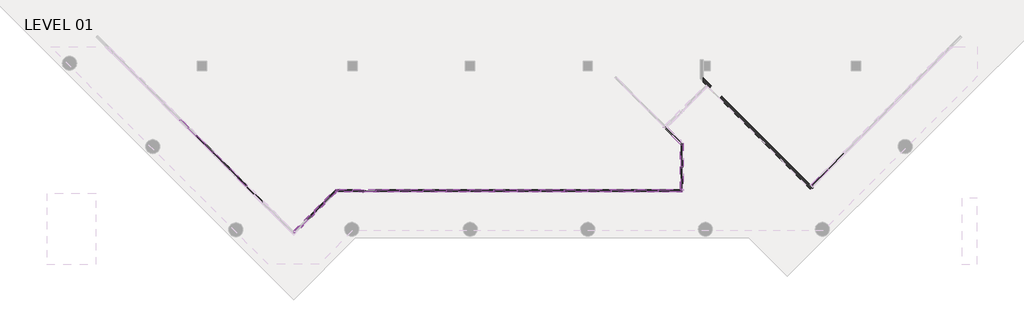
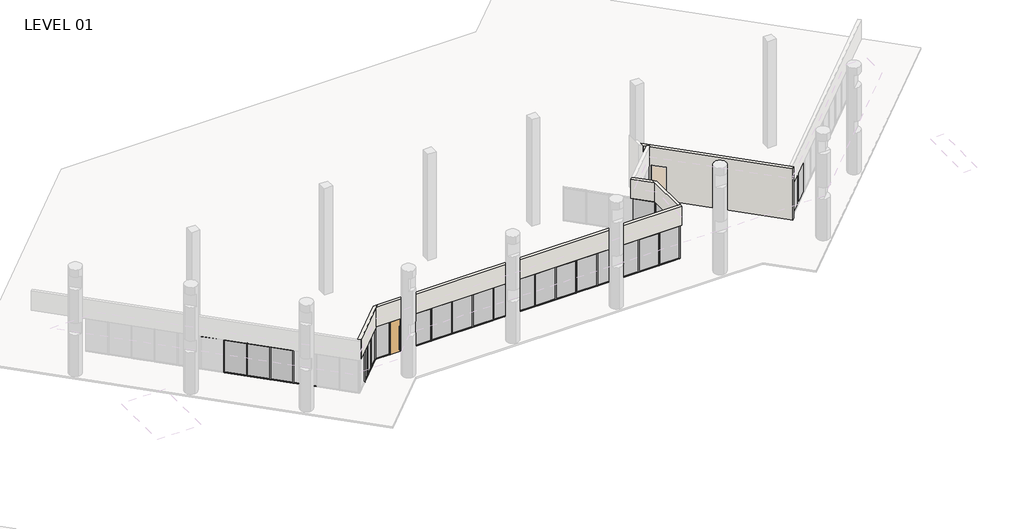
# One storey, part 11 of 24: 79 members, 25 plates, 5 walls, 1 door.
"""IFC4 building model written with IfcOpenShell, lengths in millimetres."""

from ifc_helpers import new_model, si_unit, origin, place, context, project, spatial, faceted_brep, transform, mapped, element, save
from components import curtain_wall_dbl_glass_curtain_wall_dbl_glass_5292c49e, member_5247f267, member_ed5eb8ce, member_1b18ecbc, member_e44af9ab, member_800970d4, member_cca1f9e6, member_76371e1d, member_71e516ba, plate_ce959b8d, plate_67294edd, plate_5a14c350, plate_43a54168, plate_9188e7fd, plate_7efc74f4

model = new_model("IFC4")

# Units and contexts
model_context = context("Model", 3, world=origin())
ifc_project = project(units=[si_unit("LENGTHUNIT", "METRE", prefix="MILLI")], contexts=[model_context])

# Site, building, storey
site = spatial("IfcSite", under=ifc_project)
building = spatial("IfcBuilding", under=site)
storey = spatial("IfcBuildingStorey", under=building, Name="LEVEL 01", Elevation=0.0)

# Door
placement = place(None, origin())
curtain_wall_dbl_glass_curtain_wall_dbl_glass_shape = curtain_wall_dbl_glass_curtain_wall_dbl_glass_5292c49e(model_context)
element("IfcDoor", 1, ObjectType="Curtain Wall Dbl Glass : Curtain Wall Dbl Glass", at=placement, inside=storey, context=model_context, shape_type="MappedRepresentation", body=[
    mapped(curtain_wall_dbl_glass_curtain_wall_dbl_glass_shape, transform((19157.95, 91946.6523049, 0.0), x_axis=(1.0, 0.0, 0.0), y_axis=(0.0, 1.0, 0.0), z_axis=(0.0, 0.0, 1.0))),
])

# Members
member_shape = member_5247f267(model_context)
element("IfcMember", 2, ObjectType="Rectangular Mullion : 2\" x 4.5\" rectangular", at=placement, inside=storey, context=model_context, shape_type="MappedRepresentation", body=[
    mapped(member_shape, transform((9392.9905574, 94402.756245, 0.0), x_axis=(0.0, 0.0, -1.0), y_axis=(-0.7071067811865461, -0.707106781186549, 0.0), z_axis=(-0.707106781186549, 0.7071067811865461, 0.0))),
])
element("IfcMember", 3, ObjectType="Rectangular Mullion : 2\" x 4.5\" rectangular", at=placement, inside=storey, context=model_context, shape_type="MappedRepresentation", body=[
    mapped(member_shape, transform((11548.2520264, 92247.4947759, 0.0), x_axis=(0.0, 0.0, -1.0), y_axis=(-0.7071067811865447, -0.7071067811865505, 0.0), z_axis=(-0.7071067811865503, 0.7071067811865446, 0.0))),
])
element("IfcMember", 4, ObjectType="Rectangular Mullion : 2\" x 4.5\" rectangular", at=placement, inside=storey, context=model_context, shape_type="MappedRepresentation", body=[
    mapped(member_shape, transform((8315.3598228, 95480.3869795, 0.0), x_axis=(0.0, 0.0, -1.0), y_axis=(-0.7071067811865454, -0.7071067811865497, 0.0), z_axis=(-0.7071067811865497, 0.7071067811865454, 0.0))),
])
element("IfcMember", 5, ObjectType="Rectangular Mullion : 2\" x 4.5\" rectangular", at=placement, inside=storey, context=model_context, shape_type="MappedRepresentation", body=[
    mapped(member_shape, transform((10470.6212919, 93325.1255104, 0.0), x_axis=(0.0, 0.0, -1.0), y_axis=(-0.7071067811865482, -0.7071067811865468, 0.0), z_axis=(-0.7071067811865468, 0.7071067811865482, 0.0))),
])
element("IfcMember", 6, ObjectType="Rectangular Mullion : 2\" x 4.5\" rectangular", at=placement, inside=storey, context=model_context, shape_type="MappedRepresentation", body=[
    mapped(member_shape, transform((22993.35, 91946.6523049, 0.0), x_axis=(0.0, 0.0, -1.0), y_axis=(0.0, -1.0, 0.0), z_axis=(-1.0, 0.0, 0.0))),
])
element("IfcMember", 7, ObjectType="Rectangular Mullion : 2\" x 4.5\" rectangular", at=placement, inside=storey, context=model_context, shape_type="MappedRepresentation", body=[
    mapped(member_shape, transform((26041.35, 91946.6523049, 0.0), x_axis=(0.0, 0.0, -1.0), y_axis=(0.0, -1.0, 0.0), z_axis=(-1.0, 0.0, 0.0))),
])
element("IfcMember", 8, ObjectType="Rectangular Mullion : 2\" x 4.5\" rectangular", at=placement, inside=storey, context=model_context, shape_type="MappedRepresentation", body=[
    mapped(member_shape, transform((27565.35, 91946.6523049, 0.0), x_axis=(0.0, 0.0, -1.0), y_axis=(0.0, -1.0, 0.0), z_axis=(-1.0, 0.0, 0.0))),
])
element("IfcMember", 9, ObjectType="Rectangular Mullion : 2\" x 4.5\" rectangular", at=placement, inside=storey, context=model_context, shape_type="MappedRepresentation", body=[
    mapped(member_shape, transform((30613.35, 91946.6523049, 0.0), x_axis=(0.0, 0.0, -1.0), y_axis=(0.0, -1.0, 0.0), z_axis=(-1.0, 0.0, 0.0))),
])
element("IfcMember", 10, ObjectType="Rectangular Mullion : 2\" x 4.5\" rectangular", at=placement, inside=storey, context=model_context, shape_type="MappedRepresentation", body=[
    mapped(member_shape, transform((33661.35, 91946.6523049, 0.0), x_axis=(0.0, 0.0, -1.0), y_axis=(0.0, -1.0, 0.0), z_axis=(-1.0, 0.0, 0.0))),
])
element("IfcMember", 11, ObjectType="Rectangular Mullion : 2\" x 4.5\" rectangular", at=placement, inside=storey, context=model_context, shape_type="MappedRepresentation", body=[
    mapped(member_shape, transform((35185.35, 91946.6523049, 0.0), x_axis=(0.0, 0.0, -1.0), y_axis=(0.0, -1.0, 0.0), z_axis=(-1.0, 0.0, 0.0))),
])
element("IfcMember", 12, ObjectType="Rectangular Mullion : 2\" x 4.5\" rectangular", at=placement, inside=storey, context=model_context, shape_type="MappedRepresentation", body=[
    mapped(member_shape, transform((24517.35, 91946.6523049, 0.0), x_axis=(0.0, 0.0, -1.0), y_axis=(0.0, -1.0, 0.0), z_axis=(-1.0, 0.0, 0.0))),
])
element("IfcMember", 13, ObjectType="Rectangular Mullion : 2\" x 4.5\" rectangular", at=placement, inside=storey, context=model_context, shape_type="MappedRepresentation", body=[
    mapped(member_shape, transform((21469.35, 91946.6523049, 0.0), x_axis=(0.0, 0.0, -1.0), y_axis=(0.0, -1.0, 0.0), z_axis=(-1.0, 0.0, 0.0))),
])
element("IfcMember", 14, ObjectType="Rectangular Mullion : 2\" x 4.5\" rectangular", at=placement, inside=storey, context=model_context, shape_type="MappedRepresentation", body=[
    mapped(member_shape, transform((19945.35, 91946.6523049, 0.0), x_axis=(0.0, 0.0, -1.0), y_axis=(0.0, -1.0, 0.0), z_axis=(-1.0, 0.0, 0.0))),
])
element("IfcMember", 15, ObjectType="Rectangular Mullion : 2\" x 4.5\" rectangular", at=placement, inside=storey, context=model_context, shape_type="MappedRepresentation", body=[
    mapped(member_shape, transform((32137.35, 91946.6523049, 0.0), x_axis=(0.0, 0.0, -1.0), y_axis=(0.0, -1.0, 0.0), z_axis=(-1.0, 0.0, 0.0))),
])
element("IfcMember", 16, ObjectType="Rectangular Mullion : 2\" x 4.5\" rectangular", at=placement, inside=storey, context=model_context, shape_type="MappedRepresentation", body=[
    mapped(member_shape, transform((29089.35, 91946.6523049, 0.0), x_axis=(0.0, 0.0, -1.0), y_axis=(0.0, -1.0, 0.0), z_axis=(-1.0, 0.0, 0.0))),
])
element("IfcMember", 17, ObjectType="Rectangular Mullion : 2\" x 4.5\" rectangular", at=placement, inside=storey, context=model_context, shape_type="MappedRepresentation", body=[
    mapped(member_shape, transform((36709.35, 91946.6523049, 0.0), x_axis=(0.0, 0.0, -1.0), y_axis=(0.0, -1.0, 0.0), z_axis=(-1.0, 0.0, 0.0))),
])
element("IfcMember", 18, ObjectType="Rectangular Mullion : 2\" x 4.5\" rectangular", at=placement, inside=storey, context=model_context, shape_type="MappedRepresentation", body=[
    mapped(member_shape, transform((9357.0695329, 94438.6772694, 2590.8), x_axis=(0.0, 0.0, 1.0), y_axis=(-0.7071067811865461, -0.707106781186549, 0.0), z_axis=(0.707106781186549, -0.7071067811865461, 0.0))),
])
element("IfcMember", 19, ObjectType="Rectangular Mullion : 2\" x 4.5\" rectangular", at=placement, inside=storey, context=model_context, shape_type="MappedRepresentation", body=[
    mapped(member_shape, transform((11512.3310019, 92283.4158004, 2590.8), x_axis=(0.0, 0.0, 1.0), y_axis=(-0.7071067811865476, -0.7071067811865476, 0.0), z_axis=(0.7071067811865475, -0.7071067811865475, 0.0))),
])
element("IfcMember", 20, ObjectType="Rectangular Mullion : 2\" x 4.5\" rectangular", at=placement, inside=storey, context=model_context, shape_type="MappedRepresentation", body=[
    mapped(member_shape, transform((8279.4387983, 95516.308004, 2590.8), x_axis=(0.0, 0.0, 1.0), y_axis=(-0.7071067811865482, -0.7071067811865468, 0.0), z_axis=(0.7071067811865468, -0.7071067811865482, 0.0))),
])
element("IfcMember", 21, ObjectType="Rectangular Mullion : 2\" x 4.5\" rectangular", at=placement, inside=storey, context=model_context, shape_type="MappedRepresentation", body=[
    mapped(member_shape, transform((10434.7002674, 93361.0465349, 2590.8), x_axis=(0.0, 0.0, 1.0), y_axis=(-0.7071067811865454, -0.7071067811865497, 0.0), z_axis=(0.7071067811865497, -0.7071067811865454, 0.0))),
])
element("IfcMember", 22, ObjectType="Rectangular Mullion : 2\" x 4.5\" rectangular", at=placement, inside=storey, context=model_context, shape_type="MappedRepresentation", body=[
    mapped(member_shape, transform((22942.55, 91946.6523049, 2590.8), x_axis=(0.0, 0.0, 1.0), y_axis=(0.0, -1.0, 0.0), z_axis=(1.0, 0.0, 0.0))),
])
element("IfcMember", 23, ObjectType="Rectangular Mullion : 2\" x 4.5\" rectangular", at=placement, inside=storey, context=model_context, shape_type="MappedRepresentation", body=[
    mapped(member_shape, transform((25990.55, 91946.6523049, 2590.8), x_axis=(0.0, 0.0, 1.0), y_axis=(0.0, -1.0, 0.0), z_axis=(1.0, 0.0, 0.0))),
])
element("IfcMember", 24, ObjectType="Rectangular Mullion : 2\" x 4.5\" rectangular", at=placement, inside=storey, context=model_context, shape_type="MappedRepresentation", body=[
    mapped(member_shape, transform((27514.55, 91946.6523049, 2590.8), x_axis=(0.0, 0.0, 1.0), y_axis=(0.0, -1.0, 0.0), z_axis=(1.0, 0.0, 0.0))),
])
element("IfcMember", 25, ObjectType="Rectangular Mullion : 2\" x 4.5\" rectangular", at=placement, inside=storey, context=model_context, shape_type="MappedRepresentation", body=[
    mapped(member_shape, transform((30562.55, 91946.6523049, 2590.8), x_axis=(0.0, 0.0, 1.0), y_axis=(0.0, -1.0, 0.0), z_axis=(1.0, 0.0, 0.0))),
])
element("IfcMember", 26, ObjectType="Rectangular Mullion : 2\" x 4.5\" rectangular", at=placement, inside=storey, context=model_context, shape_type="MappedRepresentation", body=[
    mapped(member_shape, transform((33610.55, 91946.6523049, 2590.8), x_axis=(0.0, 0.0, 1.0), y_axis=(0.0, -1.0, 0.0), z_axis=(1.0, 0.0, 0.0))),
])
element("IfcMember", 27, ObjectType="Rectangular Mullion : 2\" x 4.5\" rectangular", at=placement, inside=storey, context=model_context, shape_type="MappedRepresentation", body=[
    mapped(member_shape, transform((35134.55, 91946.6523049, 2590.8), x_axis=(0.0, 0.0, 1.0), y_axis=(0.0, -1.0, 0.0), z_axis=(1.0, 0.0, 0.0))),
])
element("IfcMember", 28, ObjectType="Rectangular Mullion : 2\" x 4.5\" rectangular", at=placement, inside=storey, context=model_context, shape_type="MappedRepresentation", body=[
    mapped(member_shape, transform((38182.55, 91946.6523049, 2590.8), x_axis=(0.0, 0.0, 1.0), y_axis=(0.0, -1.0, 0.0), z_axis=(1.0, 0.0, 0.0))),
])
element("IfcMember", 29, ObjectType="Rectangular Mullion : 2\" x 4.5\" rectangular", at=placement, inside=storey, context=model_context, shape_type="MappedRepresentation", body=[
    mapped(member_shape, transform((24466.55, 91946.6523049, 2590.8), x_axis=(0.0, 0.0, 1.0), y_axis=(0.0, -1.0, 0.0), z_axis=(1.0, 0.0, 0.0))),
])
element("IfcMember", 30, ObjectType="Rectangular Mullion : 2\" x 4.5\" rectangular", at=placement, inside=storey, context=model_context, shape_type="MappedRepresentation", body=[
    mapped(member_shape, transform((21418.55, 91946.6523049, 2590.8), x_axis=(0.0, 0.0, 1.0), y_axis=(0.0, -1.0, 0.0), z_axis=(1.0, 0.0, 0.0))),
])
element("IfcMember", 31, ObjectType="Rectangular Mullion : 2\" x 4.5\" rectangular", at=placement, inside=storey, context=model_context, shape_type="MappedRepresentation", body=[
    mapped(member_shape, transform((19894.55, 91946.6523049, 2590.8), x_axis=(0.0, 0.0, 1.0), y_axis=(0.0, -1.0, 0.0), z_axis=(1.0, 0.0, 0.0))),
])
element("IfcMember", 32, ObjectType="Rectangular Mullion : 2\" x 4.5\" rectangular", at=placement, inside=storey, context=model_context, shape_type="MappedRepresentation", body=[
    mapped(member_shape, transform((32086.55, 91946.6523049, 2590.8), x_axis=(0.0, 0.0, 1.0), y_axis=(0.0, -1.0, 0.0), z_axis=(1.0, 0.0, 0.0))),
])
element("IfcMember", 33, ObjectType="Rectangular Mullion : 2\" x 4.5\" rectangular", at=placement, inside=storey, context=model_context, shape_type="MappedRepresentation", body=[
    mapped(member_shape, transform((29038.55, 91946.6523049, 2590.8), x_axis=(0.0, 0.0, 1.0), y_axis=(0.0, -1.0, 0.0), z_axis=(1.0, 0.0, 0.0))),
])
element("IfcMember", 34, ObjectType="Rectangular Mullion : 2\" x 4.5\" rectangular", at=placement, inside=storey, context=model_context, shape_type="MappedRepresentation", body=[
    mapped(member_shape, transform((36658.55, 91946.6523049, 2590.8), x_axis=(0.0, 0.0, 1.0), y_axis=(0.0, -1.0, 0.0), z_axis=(1.0, 0.0, 0.0))),
])
member_2_shape = member_ed5eb8ce(model_context)
element("IfcMember", 35, ObjectType="Rectangular Mullion : 2\" x 4.5\" rectangular", at=placement, inside=storey, context=model_context, shape_type="MappedRepresentation", body=[
    mapped(member_2_shape, transform((17286.8844781, 91910.7312804, 2590.8), x_axis=(0.0, 0.0, 1.0), y_axis=(0.7071067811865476, -0.7071067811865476, 0.0), z_axis=(0.7071067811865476, 0.7071067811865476, 0.0))),
])
element("IfcMember", 36, ObjectType="Rectangular Mullion : 2\" x 4.5\" rectangular", at=placement, inside=storey, context=model_context, shape_type="MappedRepresentation", body=[
    mapped(member_2_shape, transform((18370.55, 91946.6523049, 2590.8), x_axis=(0.0, 0.0, 1.0), y_axis=(0.0, -1.0, 0.0), z_axis=(1.0, 0.0, 0.0))),
])
element("IfcMember", 37, ObjectType="Rectangular Mullion : 2\" x 4.5\" rectangular", at=placement, inside=storey, context=model_context, shape_type="MappedRepresentation", body=[
    mapped(member_2_shape, transform((16581.9343726, 91205.7811749, 0.0), x_axis=(0.0, 0.0, -1.0), y_axis=(0.7071067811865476, -0.7071067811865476, 0.0), z_axis=(-0.7071067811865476, -0.7071067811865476, 0.0))),
])
element("IfcMember", 38, ObjectType="Rectangular Mullion : 2\" x 4.5\" rectangular", at=placement, inside=storey, context=model_context, shape_type="MappedRepresentation", body=[
    mapped(member_2_shape, transform((17373.6055026, 91946.6523049, 0.0), x_axis=(0.0, 0.0, -1.0), y_axis=(0.0, -1.0, 0.0), z_axis=(-1.0, 0.0, 0.0))),
])
member_3_shape = member_1b18ecbc(model_context)
element("IfcMember", 39, ObjectType="Rectangular Mullion : 2\" x 4.5\" rectangular", at=placement, inside=storey, context=model_context, shape_type="MappedRepresentation", body=[
    mapped(member_3_shape, transform((15468.3826136, 90092.2294159, 2590.8), x_axis=(0.0, 0.0, 1.0), y_axis=(0.7071067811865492, -0.7071067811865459, 0.0), z_axis=(0.7071067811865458, 0.7071067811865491, 0.0))),
])
member_4_shape = member_e44af9ab(model_context)
element("IfcMember", 40, ObjectType="Rectangular Mullion : 2\" x 4.5\" rectangular", at=placement, inside=storey, context=model_context, shape_type="MappedRepresentation", body=[
    mapped(member_4_shape, transform((9375.0300451, 94420.7167572, 0.0), x_axis=(0.7071067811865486, -0.7071067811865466, 0.0), y_axis=(-0.7071067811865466, -0.7071067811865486, 0.0), z_axis=(0.0, 0.0, -1.0))),
])
element("IfcMember", 41, ObjectType="Rectangular Mullion : 2\" x 4.5\" rectangular", at=placement, inside=storey, context=model_context, shape_type="MappedRepresentation", body=[
    mapped(member_4_shape, transform((11530.2915142, 92265.4552881, 0.0), x_axis=(0.7071067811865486, -0.7071067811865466, 0.0), y_axis=(-0.7071067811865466, -0.7071067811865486, 0.0), z_axis=(0.0, 0.0, -1.0))),
])
element("IfcMember", 42, ObjectType="Rectangular Mullion : 2\" x 4.5\" rectangular", at=placement, inside=storey, context=model_context, shape_type="MappedRepresentation", body=[
    mapped(member_4_shape, transform((16563.9738604, 91187.8206627, 0.0), x_axis=(0.7071067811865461, 0.7071067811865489, 0.0), y_axis=(0.7071067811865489, -0.7071067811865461, 0.0), z_axis=(0.0, 0.0, -1.0))),
])
element("IfcMember", 43, ObjectType="Rectangular Mullion : 2\" x 4.5\" rectangular", at=placement, inside=storey, context=model_context, shape_type="MappedRepresentation", body=[
    mapped(member_4_shape, transform((8297.3993106, 95498.3474917, 0.0), x_axis=(0.7071067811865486, -0.7071067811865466, 0.0), y_axis=(-0.7071067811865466, -0.7071067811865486, 0.0), z_axis=(0.0, 0.0, -1.0))),
])
element("IfcMember", 44, ObjectType="Rectangular Mullion : 2\" x 4.5\" rectangular", at=placement, inside=storey, context=model_context, shape_type="MappedRepresentation", body=[
    mapped(member_4_shape, transform((10452.6607796, 93343.0860227, 0.0), x_axis=(0.7071067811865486, -0.7071067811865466, 0.0), y_axis=(-0.7071067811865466, -0.7071067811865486, 0.0), z_axis=(0.0, 0.0, -1.0))),
])
element("IfcMember", 45, ObjectType="Rectangular Mullion : 2\" x 4.5\" rectangular", at=placement, inside=storey, context=model_context, shape_type="MappedRepresentation", body=[
    mapped(member_4_shape, transform((15486.3431258, 90110.1899282, 0.0), x_axis=(0.7071067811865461, 0.7071067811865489, 0.0), y_axis=(0.7071067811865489, -0.7071067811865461, 0.0), z_axis=(0.0, 0.0, -1.0))),
])
element("IfcMember", 46, ObjectType="Rectangular Mullion : 2\" x 4.5\" rectangular", at=placement, inside=storey, context=model_context, shape_type="MappedRepresentation", body=[
    mapped(member_4_shape, transform((18395.95, 91946.6523049, 0.0), x_axis=(1.0, 0.0, 0.0), y_axis=(0.0, -1.0, 0.0), z_axis=(0.0, 0.0, -1.0))),
])
element("IfcMember", 47, ObjectType="Rectangular Mullion : 2\" x 4.5\" rectangular", at=placement, inside=storey, context=model_context, shape_type="MappedRepresentation", body=[
    mapped(member_4_shape, transform((22967.95, 91946.6523049, 0.0), x_axis=(1.0, 0.0, 0.0), y_axis=(0.0, -1.0, 0.0), z_axis=(0.0, 0.0, -1.0))),
])
element("IfcMember", 48, ObjectType="Rectangular Mullion : 2\" x 4.5\" rectangular", at=placement, inside=storey, context=model_context, shape_type="MappedRepresentation", body=[
    mapped(member_4_shape, transform((26015.95, 91946.6523049, 0.0), x_axis=(1.0, 0.0, 0.0), y_axis=(0.0, -1.0, 0.0), z_axis=(0.0, 0.0, -1.0))),
])
element("IfcMember", 49, ObjectType="Rectangular Mullion : 2\" x 4.5\" rectangular", at=placement, inside=storey, context=model_context, shape_type="MappedRepresentation", body=[
    mapped(member_4_shape, transform((27539.95, 91946.6523049, 0.0), x_axis=(1.0, 0.0, 0.0), y_axis=(0.0, -1.0, 0.0), z_axis=(0.0, 0.0, -1.0))),
])
element("IfcMember", 50, ObjectType="Rectangular Mullion : 2\" x 4.5\" rectangular", at=placement, inside=storey, context=model_context, shape_type="MappedRepresentation", body=[
    mapped(member_4_shape, transform((30587.95, 91946.6523049, 0.0), x_axis=(1.0, 0.0, 0.0), y_axis=(0.0, -1.0, 0.0), z_axis=(0.0, 0.0, -1.0))),
])
element("IfcMember", 51, ObjectType="Rectangular Mullion : 2\" x 4.5\" rectangular", at=placement, inside=storey, context=model_context, shape_type="MappedRepresentation", body=[
    mapped(member_4_shape, transform((33635.95, 91946.6523049, 0.0), x_axis=(1.0, 0.0, 0.0), y_axis=(0.0, -1.0, 0.0), z_axis=(0.0, 0.0, -1.0))),
])
element("IfcMember", 52, ObjectType="Rectangular Mullion : 2\" x 4.5\" rectangular", at=placement, inside=storey, context=model_context, shape_type="MappedRepresentation", body=[
    mapped(member_4_shape, transform((35159.95, 91946.6523049, 0.0), x_axis=(1.0, 0.0, 0.0), y_axis=(0.0, -1.0, 0.0), z_axis=(0.0, 0.0, -1.0))),
])
element("IfcMember", 53, ObjectType="Rectangular Mullion : 2\" x 4.5\" rectangular", at=placement, inside=storey, context=model_context, shape_type="MappedRepresentation", body=[
    mapped(member_4_shape, transform((38207.95, 91946.6523049, 0.0), x_axis=(1.0, 0.0, 0.0), y_axis=(0.0, -1.0, 0.0), z_axis=(0.0, 0.0, -1.0))),
])
element("IfcMember", 54, ObjectType="Rectangular Mullion : 2\" x 4.5\" rectangular", at=placement, inside=storey, context=model_context, shape_type="MappedRepresentation", body=[
    mapped(member_4_shape, transform((24491.95, 91946.6523049, 0.0), x_axis=(1.0, 0.0, 0.0), y_axis=(0.0, -1.0, 0.0), z_axis=(0.0, 0.0, -1.0))),
])
element("IfcMember", 55, ObjectType="Rectangular Mullion : 2\" x 4.5\" rectangular", at=placement, inside=storey, context=model_context, shape_type="MappedRepresentation", body=[
    mapped(member_4_shape, transform((21443.95, 91946.6523049, 0.0), x_axis=(1.0, 0.0, 0.0), y_axis=(0.0, -1.0, 0.0), z_axis=(0.0, 0.0, -1.0))),
])
element("IfcMember", 56, ObjectType="Rectangular Mullion : 2\" x 4.5\" rectangular", at=placement, inside=storey, context=model_context, shape_type="MappedRepresentation", body=[
    mapped(member_4_shape, transform((19919.95, 91946.6523049, 0.0), x_axis=(1.0, 0.0, 0.0), y_axis=(0.0, -1.0, 0.0), z_axis=(0.0, 0.0, -1.0))),
])
element("IfcMember", 57, ObjectType="Rectangular Mullion : 2\" x 4.5\" rectangular", at=placement, inside=storey, context=model_context, shape_type="MappedRepresentation", body=[
    mapped(member_4_shape, transform((32111.95, 91946.6523049, 0.0), x_axis=(1.0, 0.0, 0.0), y_axis=(0.0, -1.0, 0.0), z_axis=(0.0, 0.0, -1.0))),
])
element("IfcMember", 58, ObjectType="Rectangular Mullion : 2\" x 4.5\" rectangular", at=placement, inside=storey, context=model_context, shape_type="MappedRepresentation", body=[
    mapped(member_4_shape, transform((29063.95, 91946.6523049, 0.0), x_axis=(1.0, 0.0, 0.0), y_axis=(0.0, -1.0, 0.0), z_axis=(0.0, 0.0, -1.0))),
])
element("IfcMember", 59, ObjectType="Rectangular Mullion : 2\" x 4.5\" rectangular", at=placement, inside=storey, context=model_context, shape_type="MappedRepresentation", body=[
    mapped(member_4_shape, transform((36683.95, 91946.6523049, 0.0), x_axis=(1.0, 0.0, 0.0), y_axis=(0.0, -1.0, 0.0), z_axis=(0.0, 0.0, -1.0))),
])
element("IfcMember", 60, ObjectType="Rectangular Mullion : 2\" x 4.5\" rectangular", at=placement, inside=storey, context=model_context, shape_type="MappedRepresentation", body=[
    mapped(member_4_shape, transform((39731.95, 93470.6523049, 0.0), x_axis=(0.0, 1.0, 0.0), y_axis=(1.0, 0.0, 0.0), z_axis=(0.0, 0.0, -1.0))),
])
member_5_shape = member_800970d4(model_context)
element("IfcMember", 61, ObjectType="Rectangular Mullion : 2\" x 4.5\" rectangular", at=placement, inside=storey, context=model_context, shape_type="MappedRepresentation", body=[
    mapped(member_5_shape, transform((48121.3251492, 92265.1719515, 0.0), x_axis=(-0.7071067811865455, -0.7071067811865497, 0.0), y_axis=(-0.7071067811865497, 0.7071067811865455, 0.0), z_axis=(0.0, 0.0, -1.0))),
])
element("IfcMember", 62, ObjectType="Rectangular Mullion : 2\" x 4.5\" rectangular", at=placement, inside=storey, context=model_context, shape_type="MappedRepresentation", body=[
    mapped(member_5_shape, transform((17322.8055026, 91946.6523049, 0.0), x_axis=(0.7071067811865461, 0.7071067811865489, 0.0), y_axis=(0.7071067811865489, -0.7071067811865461, 0.0), z_axis=(0.0, 0.0, -1.0))),
])
element("IfcMember", 63, ObjectType="Rectangular Mullion : 2\" x 4.5\" rectangular", at=placement, inside=storey, context=model_context, shape_type="MappedRepresentation", body=[
    mapped(member_5_shape, transform((39731.95, 91946.6523049, 0.0), x_axis=(1.0, 0.0, 0.0), y_axis=(0.0, -1.0, 0.0), z_axis=(0.0, 0.0, -1.0))),
])
element("IfcMember", 64, ObjectType="Rectangular Mullion : 2\" x 4.5\" rectangular", at=placement, inside=storey, context=model_context, shape_type="MappedRepresentation", body=[
    mapped(member_5_shape, transform((39731.95, 94994.6523049, 0.0), x_axis=(0.0, 1.0, 0.0), y_axis=(1.0, 0.0, 0.0), z_axis=(0.0, 0.0, -1.0))),
])
element("IfcMember", 65, ObjectType="Rectangular Mullion : 2\" x 4.5\" rectangular", at=placement, inside=storey, context=model_context, shape_type="MappedRepresentation", body=[
    mapped(member_5_shape, transform((17322.8055026, 91946.6523049, 2590.8), x_axis=(-1.0, 0.0, 0.0), y_axis=(0.0, -1.0, 0.0), z_axis=(0.0, 0.0, 1.0))),
])
element("IfcMember", 66, ObjectType="Rectangular Mullion : 2\" x 4.5\" rectangular", at=placement, inside=storey, context=model_context, shape_type="MappedRepresentation", body=[
    mapped(member_5_shape, transform((39731.95, 91946.6523049, 2590.8), x_axis=(0.0, -1.0, 0.0), y_axis=(1.0, 0.0, 0.0), z_axis=(0.0, 0.0, 1.0))),
])
element("IfcMember", 67, ObjectType="Rectangular Mullion : 2\" x 4.5\" rectangular", at=placement, inside=storey, context=model_context, shape_type="MappedRepresentation", body=[
    mapped(member_5_shape, transform((39731.95, 94994.6523049, 2590.8), x_axis=(0.7071067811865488, -0.7071067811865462, 0.0), y_axis=(0.7071067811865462, 0.7071067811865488, 0.0), z_axis=(0.0, 0.0, 1.0))),
])
member_6_shape = member_cca1f9e6(model_context)
element("IfcMember", 68, ObjectType="Rectangular Mullion : 2\" x 4.5\" rectangular", at=placement, inside=storey, context=model_context, shape_type="MappedRepresentation", body=[
    mapped(member_6_shape, transform((48157.2461737, 92301.092976, 2590.8), x_axis=(0.0, 0.0, 1.0), y_axis=(-0.7071067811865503, 0.7071067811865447, 0.0), z_axis=(-0.7071067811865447, -0.7071067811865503, 0.0))),
])
element("IfcMember", 69, ObjectType="Rectangular Mullion : 2\" x 4.5\" rectangular", at=placement, inside=storey, context=model_context, shape_type="MappedRepresentation", body=[
    mapped(member_6_shape, transform((39681.15, 91946.6523049, 2590.8), x_axis=(0.0, 0.0, 1.0), y_axis=(0.0, -1.0, 0.0), z_axis=(1.0, 0.0, 0.0))),
])
element("IfcMember", 70, ObjectType="Rectangular Mullion : 2\" x 4.5\" rectangular", at=placement, inside=storey, context=model_context, shape_type="MappedRepresentation", body=[
    mapped(member_6_shape, transform((39731.95, 94943.8523049, 2590.8), x_axis=(0.0, 0.0, 1.0), y_axis=(1.0, 0.0, 0.0), z_axis=(0.0, 1.0, 0.0))),
])
element("IfcMember", 71, ObjectType="Rectangular Mullion : 2\" x 4.5\" rectangular", at=placement, inside=storey, context=model_context, shape_type="MappedRepresentation", body=[
    mapped(member_6_shape, transform((39731.95, 93445.2523049, 2590.8), x_axis=(0.0, 0.0, 1.0), y_axis=(1.0, 0.0, 0.0), z_axis=(0.0, 1.0, 0.0))),
])
element("IfcMember", 72, ObjectType="Rectangular Mullion : 2\" x 4.5\" rectangular", at=placement, inside=storey, context=model_context, shape_type="MappedRepresentation", body=[
    mapped(member_6_shape, transform((39731.95, 91997.4523049, 0.0), x_axis=(0.0, 0.0, -1.0), y_axis=(1.0, 0.0, 0.0), z_axis=(0.0, -1.0, 0.0))),
])
element("IfcMember", 73, ObjectType="Rectangular Mullion : 2\" x 4.5\" rectangular", at=placement, inside=storey, context=model_context, shape_type="MappedRepresentation", body=[
    mapped(member_6_shape, transform((38233.35, 91946.6523049, 0.0), x_axis=(0.0, 0.0, -1.0), y_axis=(0.0, -1.0, 0.0), z_axis=(-1.0, 0.0, 0.0))),
])
element("IfcMember", 74, ObjectType="Rectangular Mullion : 2\" x 4.5\" rectangular", at=placement, inside=storey, context=model_context, shape_type="MappedRepresentation", body=[
    mapped(member_6_shape, transform((39731.95, 93496.0523049, 0.0), x_axis=(0.0, 0.0, -1.0), y_axis=(1.0, 0.0, 0.0), z_axis=(0.0, -1.0, 0.0))),
])
element("IfcMember", 75, ObjectType="Rectangular Mullion : 2\" x 4.5\" rectangular", at=placement, inside=storey, context=model_context, shape_type="MappedRepresentation", body=[
    mapped(member_6_shape, transform((39696.0289755, 95030.5733294, 0.0), x_axis=(0.0, 0.0, -1.0), y_axis=(0.7071067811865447, 0.7071067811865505, 0.0), z_axis=(0.7071067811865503, -0.7071067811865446, 0.0))),
])
member_7_shape = member_76371e1d(model_context)
element("IfcMember", 76, ObjectType="Rectangular Mullion : 2\" x 4.5\" rectangular", at=placement, inside=storey, context=model_context, shape_type="MappedRepresentation", body=[
    mapped(member_7_shape, transform((16546.0133481, 91169.8601505, 2590.8), x_axis=(0.0, 0.0, 1.0), y_axis=(0.70710678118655, -0.707106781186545, 0.0), z_axis=(0.707106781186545, 0.70710678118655, 0.0))),
])
member_8_shape = member_71e516ba(model_context)
element("IfcMember", 77, ObjectType="Rectangular Mullion : 2\" x 4.5\" rectangular", at=placement, inside=storey, context=model_context, shape_type="MappedRepresentation", body=[
    mapped(member_8_shape, transform((15504.3036381, 90128.1504404, 0.0), x_axis=(0.0, 0.0, -1.0), y_axis=(0.7071067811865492, -0.7071067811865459, 0.0), z_axis=(-0.7071067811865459, -0.7071067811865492, 0.0))),
])
element("IfcMember", 78, ObjectType="Rectangular Mullion : 2\" x 4.5\" rectangular", at=placement, inside=storey, context=model_context, shape_type="MappedRepresentation", body=[
    mapped(member_8_shape, transform((15936.4172391, 90560.2640414, 2590.8), x_axis=(0.0, 0.0, 1.0), y_axis=(0.7071067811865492, -0.7071067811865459, 0.0), z_axis=(0.7071067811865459, 0.7071067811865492, 0.0))),
])
element("IfcMember", 79, ObjectType="Rectangular Mullion : 2\" x 4.5\" rectangular", at=placement, inside=storey, context=model_context, shape_type="MappedRepresentation", body=[
    mapped(member_7_shape, transform((15972.3382635, 90596.1850659, 0.0), x_axis=(0.0, 0.0, -1.0), y_axis=(0.70710678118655, -0.707106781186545, 0.0), z_axis=(-0.707106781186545, -0.70710678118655, 0.0))),
])
element("IfcMember", 80, ObjectType="Rectangular Mullion : 2\" x 4.5\" rectangular", at=placement, inside=storey, context=model_context, shape_type="MappedRepresentation", body=[
    mapped(member_4_shape, transform((15954.3777513, 90578.2245536, 0.0), x_axis=(0.7071067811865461, 0.7071067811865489, 0.0), y_axis=(0.7071067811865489, -0.7071067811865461, 0.0), z_axis=(0.0, 0.0, -1.0))),
])

# Plates
plate_shape = plate_ce959b8d(model_context)
element("IfcPlate", 81, ObjectType="System Panel : 1/4\" Glass", at=placement, inside=storey, context=model_context, shape_type="MappedRepresentation", body=[
    mapped(plate_shape, transform((17872.0777513, 91946.6523049, 50.8), x_axis=(1.0, 0.0, 0.0), y_axis=(0.0, 1.0, 0.0), z_axis=(0.0, 0.0, 1.0))),
])
plate_2_shape = plate_67294edd(model_context)
element("IfcPlate", 82, ObjectType="System Panel : 1/4\" Glass", at=placement, inside=storey, context=model_context, shape_type="MappedRepresentation", body=[
    mapped(plate_2_shape, transform((9913.8454124, 93881.9013899, 50.8), x_axis=(0.7071067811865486, -0.7071067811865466, 0.0), y_axis=(0.7071067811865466, 0.7071067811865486, 0.0), z_axis=(0.0, 0.0, 1.0))),
])
element("IfcPlate", 83, ObjectType="System Panel : 1/4\" Glass", at=placement, inside=storey, context=model_context, shape_type="MappedRepresentation", body=[
    mapped(plate_2_shape, transform((49737.771251, 93881.6180533, 50.8), x_axis=(-0.7071067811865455, -0.7071067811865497, 0.0), y_axis=(0.7071067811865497, -0.7071067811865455, 0.0), z_axis=(0.0, 0.0, 1.0))),
])
element("IfcPlate", 84, ObjectType="System Panel : 1/4\" Glass", at=placement, inside=storey, context=model_context, shape_type="MappedRepresentation", body=[
    mapped(plate_2_shape, transform((8836.2146778, 94959.5321245, 50.8), x_axis=(0.7071067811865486, -0.7071067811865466, 0.0), y_axis=(0.7071067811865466, 0.7071067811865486, 0.0), z_axis=(0.0, 0.0, 1.0))),
])
element("IfcPlate", 85, ObjectType="System Panel : 1/4\" Glass", at=placement, inside=storey, context=model_context, shape_type="MappedRepresentation", body=[
    mapped(plate_2_shape, transform((10991.4761469, 92804.2706554, 50.8), x_axis=(0.7071067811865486, -0.7071067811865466, 0.0), y_axis=(0.7071067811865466, 0.7071067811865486, 0.0), z_axis=(0.0, 0.0, 1.0))),
])
element("IfcPlate", 86, ObjectType="System Panel : 1/4\" Glass", at=placement, inside=storey, context=model_context, shape_type="MappedRepresentation", body=[
    mapped(plate_2_shape, transform((23729.95, 91946.6523049, 50.8), x_axis=(1.0, 0.0, 0.0), y_axis=(0.0, 1.0, 0.0), z_axis=(0.0, 0.0, 1.0))),
])
element("IfcPlate", 87, ObjectType="System Panel : 1/4\" Glass", at=placement, inside=storey, context=model_context, shape_type="MappedRepresentation", body=[
    mapped(plate_2_shape, transform((26777.95, 91946.6523049, 50.8), x_axis=(1.0, 0.0, 0.0), y_axis=(0.0, 1.0, 0.0), z_axis=(0.0, 0.0, 1.0))),
])
element("IfcPlate", 88, ObjectType="System Panel : 1/4\" Glass", at=placement, inside=storey, context=model_context, shape_type="MappedRepresentation", body=[
    mapped(plate_2_shape, transform((28301.95, 91946.6523049, 50.8), x_axis=(1.0, 0.0, 0.0), y_axis=(0.0, 1.0, 0.0), z_axis=(0.0, 0.0, 1.0))),
])
element("IfcPlate", 89, ObjectType="System Panel : 1/4\" Glass", at=placement, inside=storey, context=model_context, shape_type="MappedRepresentation", body=[
    mapped(plate_2_shape, transform((31349.95, 91946.6523049, 50.8), x_axis=(1.0, 0.0, 0.0), y_axis=(0.0, 1.0, 0.0), z_axis=(0.0, 0.0, 1.0))),
])
element("IfcPlate", 90, ObjectType="System Panel : 1/4\" Glass", at=placement, inside=storey, context=model_context, shape_type="MappedRepresentation", body=[
    mapped(plate_2_shape, transform((34397.95, 91946.6523049, 50.8), x_axis=(1.0, 0.0, 0.0), y_axis=(0.0, 1.0, 0.0), z_axis=(0.0, 0.0, 1.0))),
])
element("IfcPlate", 91, ObjectType="System Panel : 1/4\" Glass", at=placement, inside=storey, context=model_context, shape_type="MappedRepresentation", body=[
    mapped(plate_2_shape, transform((35921.95, 91946.6523049, 50.8), x_axis=(1.0, 0.0, 0.0), y_axis=(0.0, 1.0, 0.0), z_axis=(0.0, 0.0, 1.0))),
])
element("IfcPlate", 92, ObjectType="System Panel : 1/4\" Glass", at=placement, inside=storey, context=model_context, shape_type="MappedRepresentation", body=[
    mapped(plate_2_shape, transform((25253.95, 91946.6523049, 50.8), x_axis=(1.0, 0.0, 0.0), y_axis=(0.0, 1.0, 0.0), z_axis=(0.0, 0.0, 1.0))),
])
element("IfcPlate", 93, ObjectType="System Panel : 1/4\" Glass", at=placement, inside=storey, context=model_context, shape_type="MappedRepresentation", body=[
    mapped(plate_2_shape, transform((22205.95, 91946.6523049, 50.8), x_axis=(1.0, 0.0, 0.0), y_axis=(0.0, 1.0, 0.0), z_axis=(0.0, 0.0, 1.0))),
])
element("IfcPlate", 94, ObjectType="System Panel : 1/4\" Glass", at=placement, inside=storey, context=model_context, shape_type="MappedRepresentation", body=[
    mapped(plate_2_shape, transform((20681.95, 91946.6523049, 50.8), x_axis=(1.0, 0.0, 0.0), y_axis=(0.0, 1.0, 0.0), z_axis=(0.0, 0.0, 1.0))),
])
element("IfcPlate", 95, ObjectType="System Panel : 1/4\" Glass", at=placement, inside=storey, context=model_context, shape_type="MappedRepresentation", body=[
    mapped(plate_2_shape, transform((32873.95, 91946.6523049, 50.8), x_axis=(1.0, 0.0, 0.0), y_axis=(0.0, 1.0, 0.0), z_axis=(0.0, 0.0, 1.0))),
])
element("IfcPlate", 96, ObjectType="System Panel : 1/4\" Glass", at=placement, inside=storey, context=model_context, shape_type="MappedRepresentation", body=[
    mapped(plate_2_shape, transform((29825.95, 91946.6523049, 50.8), x_axis=(1.0, 0.0, 0.0), y_axis=(0.0, 1.0, 0.0), z_axis=(0.0, 0.0, 1.0))),
])
element("IfcPlate", 97, ObjectType="System Panel : 1/4\" Glass", at=placement, inside=storey, context=model_context, shape_type="MappedRepresentation", body=[
    mapped(plate_2_shape, transform((37445.95, 91946.6523049, 50.8), x_axis=(1.0, 0.0, 0.0), y_axis=(0.0, 1.0, 0.0), z_axis=(0.0, 0.0, 1.0))),
])
plate_3_shape = plate_5a14c350(model_context)
element("IfcPlate", 98, ObjectType="System Panel : 1/4\" Glass", at=placement, inside=storey, context=model_context, shape_type="MappedRepresentation", body=[
    mapped(plate_3_shape, transform((48669.1207726, 92812.9675749, 50.8), x_axis=(-0.7071067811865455, -0.7071067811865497, 0.0), y_axis=(0.7071067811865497, -0.7071067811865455, 0.0), z_axis=(0.0, 0.0, 1.0))),
])
element("IfcPlate", 99, ObjectType="System Panel : 1/4\" Glass", at=placement, inside=storey, context=model_context, shape_type="MappedRepresentation", body=[
    mapped(plate_3_shape, transform((39731.95, 92721.3523049, 50.8), x_axis=(0.0, 1.0, 0.0), y_axis=(-1.0, 0.0, 0.0), z_axis=(0.0, 0.0, 1.0))),
])
element("IfcPlate", 100, ObjectType="System Panel : 1/4\" Glass", at=placement, inside=storey, context=model_context, shape_type="MappedRepresentation", body=[
    mapped(plate_3_shape, transform((39731.95, 94219.9523049, 50.8), x_axis=(0.0, 1.0, 0.0), y_axis=(-1.0, 0.0, 0.0), z_axis=(0.0, 0.0, 1.0))),
])
element("IfcPlate", 101, ObjectType="System Panel : 1/4\" Glass", at=placement, inside=storey, context=model_context, shape_type="MappedRepresentation", body=[
    mapped(plate_3_shape, transform((38957.25, 91946.6523049, 50.8), x_axis=(1.0, 0.0, 0.0), y_axis=(0.0, 1.0, 0.0), z_axis=(0.0, 0.0, 1.0))),
])
element("IfcPlate", 102, ObjectType="System Panel : 1/4\" Glass", at=placement, inside=storey, context=model_context, shape_type="MappedRepresentation", body=[
    mapped(plate_3_shape, transform((39184.1543766, 95542.4479283, 50.8), x_axis=(-0.7071067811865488, 0.7071067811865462, 0.0), y_axis=(-0.7071067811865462, -0.7071067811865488, 0.0), z_axis=(0.0, 0.0, 1.0))),
])
plate_4_shape = plate_43a54168(model_context)
element("IfcPlate", 103, ObjectType="System Panel : 1/4\" Glass", at=placement, inside=storey, context=model_context, shape_type="MappedRepresentation", body=[
    mapped(plate_4_shape, transform((16934.4094254, 91558.2562277, 50.8), x_axis=(0.7071067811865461, 0.7071067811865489, 0.0), y_axis=(-0.7071067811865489, 0.7071067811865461, 0.0), z_axis=(0.0, 0.0, 1.0))),
])
plate_5_shape = plate_9188e7fd(model_context)
element("IfcPlate", 104, ObjectType="System Panel : 1/4\" Glass", at=placement, inside=storey, context=model_context, shape_type="MappedRepresentation", body=[
    mapped(plate_5_shape, transform((15720.3604386, 90344.2072409, 50.8), x_axis=(0.7071067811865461, 0.7071067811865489, 0.0), y_axis=(-0.7071067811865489, 0.7071067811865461, 0.0), z_axis=(0.0, 0.0, 1.0))),
])
plate_6_shape = plate_7efc74f4(model_context)
element("IfcPlate", 105, ObjectType="System Panel : 1/4\" Glass", at=placement, inside=storey, context=model_context, shape_type="MappedRepresentation", body=[
    mapped(plate_6_shape, transform((16259.1758058, 90883.0226082, 50.8), x_axis=(0.7071067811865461, 0.7071067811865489, 0.0), y_axis=(-0.7071067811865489, 0.7071067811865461, 0.0), z_axis=(0.0, 0.0, 1.0))),
])

# Walls
element("IfcWall", 106, ObjectType="8\" Existing Wall", at=placement, inside=storey, context=model_context, shape_type="Brep", body=[
    faceted_brep([(41109.9, 99276.5971007, 4013.2), (48233.5783507, 92152.91875, 4013.2), (48233.5783507, 92152.91875, 0.0), (42324.569823, 98061.9272776, 0.0), (42324.569823, 98061.9272776, 2578.1), (41642.0703578, 98744.4267428, 2578.1), (41642.0703578, 98744.4267428, 0.0), (41109.9, 99276.5971007, 0.0), (48089.8942528, 92009.234652, 4013.2), (41109.9, 98989.2289048, 4013.2), (41109.9, 98989.2289048, 0.0), (41498.3862599, 98600.7426449, 0.0), (41498.3862599, 98600.7426449, 2578.1), (42180.8857251, 97918.2431797, 2578.1), (42180.8857251, 97918.2431797, 0.0), (48089.8942528, 92009.234652, 0.0)], [[[0, 1, 2, 3, 4, 5, 6, 7]], [[8, 9, 10, 11, 12, 13, 14, 15]], [[2, 15, 14, 3]], [[10, 7, 6, 11]], [[1, 0, 9, 8]], [[2, 1, 8, 15]], [[0, 7, 10, 9]], [[13, 4, 3, 14]], [[4, 13, 12, 5]], [[5, 12, 11, 6]]]),
])
element("IfcWall", 107, ObjectType="8\" Existing Wall", at=placement, inside=storey, context=model_context, shape_type="Brep", body=[
    faceted_brep([(14729.6340979, 89209.7968023, 2590.8), (17364.8896005, 91845.0523049, 2590.8), (17568.0896005, 92048.2523049, 2590.8), (17568.0896005, 92048.2523049, 4089.4), (17364.8896005, 91845.0523049, 4089.4), (14729.6340979, 89209.7968023, 4089.4), (14585.95, 89353.4809003, 2590.8), (14585.95, 89353.4809003, 4089.4), (17280.7214047, 92048.2523049, 4089.4), (17280.7214047, 92048.2523049, 2590.8)], [[[0, 1, 2, 3, 4, 5]], [[6, 7, 8, 9]], [[2, 1, 0, 6, 9]], [[5, 4, 3, 8, 7]], [[0, 5, 7, 6]], [[3, 2, 9, 8]]]),
])
element("IfcWall", 108, ObjectType="8\" Existing Wall", at=placement, inside=storey, context=model_context, shape_type="Brep", body=[
    faceted_brep([(17364.8896005, 91845.0523049, 2590.8), (39833.55, 91845.0523049, 2590.8), (39833.55, 91845.0523049, 4089.4), (17364.8896005, 91845.0523049, 4089.4), (17568.0896005, 92048.2523049, 2590.8), (17568.0896005, 92048.2523049, 4089.4), (39630.35, 92048.2523049, 4089.4), (39833.55, 92048.2523049, 4089.4), (39833.55, 92048.2523049, 2590.8), (39630.35, 92048.2523049, 2590.8)], [[[0, 1, 2, 3]], [[4, 5, 6, 7, 8, 9]], [[1, 0, 4, 9, 8]], [[3, 2, 7, 6, 5]], [[0, 3, 5, 4]], [[2, 1, 8, 7]]]),
])
element("IfcWall", 109, ObjectType="8\" Existing Wall", at=placement, inside=storey, context=model_context, shape_type="Brep", body=[
    faceted_brep([(39833.55, 92048.2523049, 2590.8), (39833.55, 95036.7364029, 2590.8), (39833.55, 95036.7364029, 4089.4), (39833.55, 92048.2523049, 4089.4), (39630.35, 92048.2523049, 2590.8), (39630.35, 92048.2523049, 4089.4), (39630.35, 94952.568207, 4089.4), (39630.35, 95239.9364029, 4089.4), (39630.35, 95239.9364029, 2590.8), (39630.35, 94952.568207, 2590.8)], [[[0, 1, 2, 3]], [[4, 5, 6, 7, 8, 9]], [[1, 0, 4, 9, 8]], [[3, 2, 7, 6, 5]], [[0, 3, 5, 4]], [[2, 1, 8, 7]]]),
])
element("IfcWall", 110, ObjectType="8\" Existing Wall", at=placement, inside=storey, context=model_context, shape_type="Brep", body=[
    faceted_brep([(39630.35, 95239.9364029, 2590.8), (38798.0033634, 96072.2830395, 2590.8), (38654.3192655, 96215.9671374, 2590.8), (38654.3192655, 96215.9671374, 4089.4), (38798.0033634, 96072.2830395, 4089.4), (39630.35, 95239.9364029, 4089.4), (39630.35, 94952.568207, 2590.8), (39630.35, 94952.568207, 4089.4), (38510.6351675, 96072.2830395, 4089.4), (38510.6351675, 96072.2830395, 2590.8)], [[[0, 1, 2, 3, 4, 5]], [[6, 7, 8, 9]], [[2, 1, 0, 6, 9]], [[5, 4, 3, 8, 7]], [[0, 5, 7, 6]], [[3, 2, 9, 8]]]),
])

save(model, "model.ifc")
